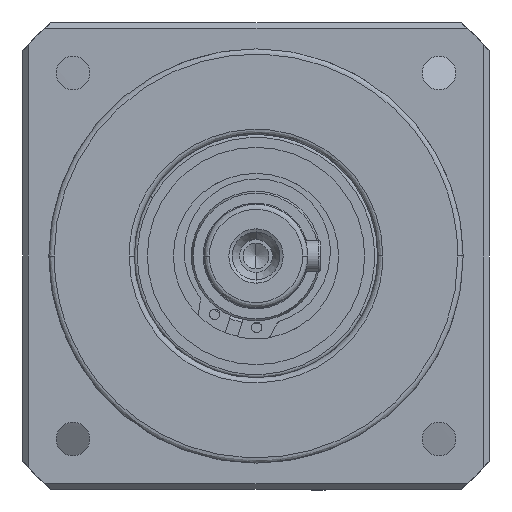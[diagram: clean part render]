
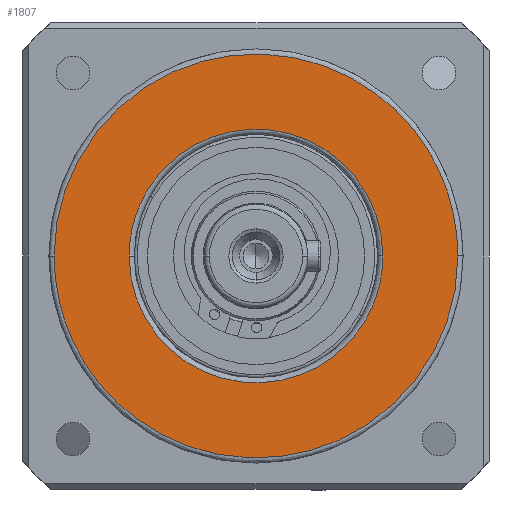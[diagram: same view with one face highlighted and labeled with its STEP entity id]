
A CAD part, front view. The second image highlights one B-rep face of the part: STEP entity #1807.
In plain terms, the highlighted planar face has unit normal (0, -1, 0).
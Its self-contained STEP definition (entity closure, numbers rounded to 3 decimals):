
#394 = CARTESIAN_POINT ( 'NONE',  ( -24.5, -75.5, 49. ) ) ;
#1436 = CARTESIAN_POINT ( 'NONE',  ( 39., -75.5, 0. ) ) ;
#1807 = ADVANCED_FACE ( 'NONE', ( #48759, #26352 ), #7123, .F. ) ;
#1909 = CARTESIAN_POINT ( 'NONE',  ( 39., -75.5, 0. ) ) ;
#3681 = EDGE_CURVE ( 'NONE', #15478, #12651, #36136, .T. ) ;
#4469 =( BOUNDED_CURVE ( )  B_SPLINE_CURVE ( 3, ( #39254, #16616, #394, #15627 ),
 .UNSPECIFIED., .F., .F. ) 
 B_SPLINE_CURVE_WITH_KNOTS ( ( 4, 4 ),
 ( 0., 1. ),
 .UNSPECIFIED. ) 
 CURVE ( )  GEOMETRIC_REPRESENTATION_ITEM ( )  RATIONAL_B_SPLINE_CURVE ( ( 1., 0.333, 0.333, 1. ) ) 
 REPRESENTATION_ITEM ( '' )  );
#4688 = CARTESIAN_POINT ( 'NONE',  ( 39., -75.5, -78. ) ) ;
#7123 = PLANE ( 'NONE',  #25017 ) ;
#7356 = CARTESIAN_POINT ( 'NONE',  ( -24.5, -75.5, 0. ) ) ;
#7611 = CARTESIAN_POINT ( 'NONE',  ( 24.5, -75.5, -49. ) ) ;
#8513 = CARTESIAN_POINT ( 'NONE',  ( -39., -75.5, 0. ) ) ;
#10513 = EDGE_CURVE ( 'NONE', #43791, #28791, #48220, .T. ) ;
#10907 = DIRECTION ( 'NONE',  ( 0., 0., 1. ) ) ;
#12651 = VERTEX_POINT ( 'NONE', #15719 ) ;
#15132 = CARTESIAN_POINT ( 'NONE',  ( -45., -75.5, -45. ) ) ;
#15478 = VERTEX_POINT ( 'NONE', #8513 ) ;
#15627 = CARTESIAN_POINT ( 'NONE',  ( -24.5, -75.5, 0. ) ) ;
#15719 = CARTESIAN_POINT ( 'NONE',  ( 39., -75.5, 0. ) ) ;
#16616 = CARTESIAN_POINT ( 'NONE',  ( 24.5, -75.5, 49. ) ) ;
#19929 = CARTESIAN_POINT ( 'NONE',  ( -39., -75.5, 0. ) ) ;
#23216 = EDGE_LOOP ( 'NONE', ( #48809, #37378 ) ) ;
#25017 = AXIS2_PLACEMENT_3D ( 'NONE', #15132, #45269, #10907 ) ;
#25133 = CARTESIAN_POINT ( 'NONE',  ( -39., -75.5, 0. ) ) ;
#25871 = CARTESIAN_POINT ( 'NONE',  ( -24.5, -75.5, -49. ) ) ;
#26352 = FACE_BOUND ( 'NONE', #32112, .T. ) ;
#28791 = VERTEX_POINT ( 'NONE', #44227 ) ;
#31137 = CARTESIAN_POINT ( 'NONE',  ( -24.5, -75.5, 0. ) ) ;
#32078 = CARTESIAN_POINT ( 'NONE',  ( -39., -75.5, 78. ) ) ;
#32112 = EDGE_LOOP ( 'NONE', ( #40970, #39664 ) ) ;
#36136 =( BOUNDED_CURVE ( )  B_SPLINE_CURVE ( 3, ( #25133, #32078, #40292, #1909 ),
 .UNSPECIFIED., .F., .T. ) 
 B_SPLINE_CURVE_WITH_KNOTS ( ( 4, 4 ),
 ( 0., 1. ),
 .UNSPECIFIED. ) 
 CURVE ( )  GEOMETRIC_REPRESENTATION_ITEM ( )  RATIONAL_B_SPLINE_CURVE ( ( 1., 0.333, 0.333, 1. ) ) 
 REPRESENTATION_ITEM ( '' )  );
#37378 = ORIENTED_EDGE ( 'NONE', *, *, #3681, .F. ) ;
#39254 = CARTESIAN_POINT ( 'NONE',  ( 24.5, -75.5, 0. ) ) ;
#39664 = ORIENTED_EDGE ( 'NONE', *, *, #10513, .F. ) ;
#40292 = CARTESIAN_POINT ( 'NONE',  ( 39., -75.5, 78. ) ) ;
#40476 = EDGE_CURVE ( 'NONE', #28791, #43791, #4469, .T. ) ;
#40970 = ORIENTED_EDGE ( 'NONE', *, *, #40476, .F. ) ;
#43048 = CARTESIAN_POINT ( 'NONE',  ( -39., -75.5, -78. ) ) ;
#43181 = EDGE_CURVE ( 'NONE', #12651, #15478, #46846, .T. ) ;
#43791 = VERTEX_POINT ( 'NONE', #31137 ) ;
#44227 = CARTESIAN_POINT ( 'NONE',  ( 24.5, -75.5, 0. ) ) ;
#45269 = DIRECTION ( 'NONE',  ( 0., 1., 0. ) ) ;
#46846 =( BOUNDED_CURVE ( )  B_SPLINE_CURVE ( 3, ( #1436, #4688, #43048, #19929 ),
 .UNSPECIFIED., .F., .T. ) 
 B_SPLINE_CURVE_WITH_KNOTS ( ( 4, 4 ),
 ( 0., 1. ),
 .UNSPECIFIED. ) 
 CURVE ( )  GEOMETRIC_REPRESENTATION_ITEM ( )  RATIONAL_B_SPLINE_CURVE ( ( 1., 0.333, 0.333, 1. ) ) 
 REPRESENTATION_ITEM ( '' )  );
#48220 =( BOUNDED_CURVE ( )  B_SPLINE_CURVE ( 3, ( #7356, #25871, #7611, #48528 ),
 .UNSPECIFIED., .F., .T. ) 
 B_SPLINE_CURVE_WITH_KNOTS ( ( 4, 4 ),
 ( 0., 1. ),
 .UNSPECIFIED. ) 
 CURVE ( )  GEOMETRIC_REPRESENTATION_ITEM ( )  RATIONAL_B_SPLINE_CURVE ( ( 1., 0.333, 0.333, 1. ) ) 
 REPRESENTATION_ITEM ( '' )  );
#48528 = CARTESIAN_POINT ( 'NONE',  ( 24.5, -75.5, 0. ) ) ;
#48759 = FACE_OUTER_BOUND ( 'NONE', #23216, .T. ) ;
#48809 = ORIENTED_EDGE ( 'NONE', *, *, #43181, .F. ) ;
